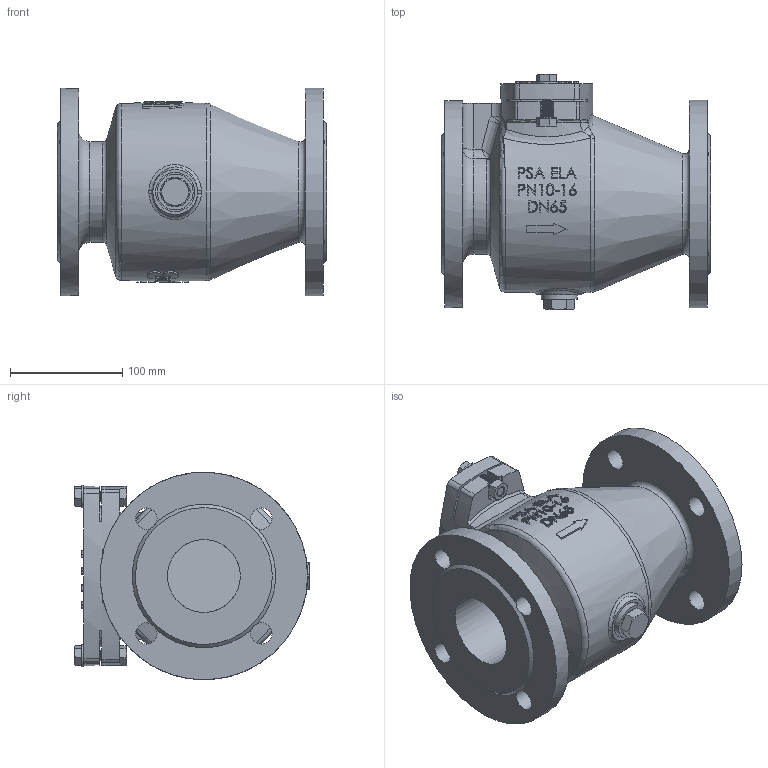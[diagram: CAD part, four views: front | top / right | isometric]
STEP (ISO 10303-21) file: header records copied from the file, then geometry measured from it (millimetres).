
FILE_DESCRIPTION(/* description */ ('PSA ELA DN65 PN16'),/* implementation_level */ '2;1');
FILE_NAME(/* name */ 'PSA ELA DN65 PN16',/* time_stamp */ '2024-10-16T12:06:02+02:00',/* author */ ('Christin-Michelle Fremgen'),/* organization */ ('PSA Wasserarmaturen GmbH'),/* preprocessor_version */ 'ST-DEVELOPER v18.104',/* originating_system */ 'Solid Edge',/* authorisation */ 'Unknown');
FILE_SCHEMA (('AUTOMOTIVE_DESIGN {1 0 10303 214 3 1 1}'));
Products named in the file (1): PSA ELA DN65 PN16
Bounding box: 240 x 209.59 x 185 mm (x, y, z)
Volume: 2110620.4 mm3; surface area: 391953 mm2
Topology: 2 solids, 24 shells, 1518 faces, 3956 edges, 2561 vertices
Faces by surface type: plane 681, bspline 416, cylinder 250, cone 123, torus 40, sphere 8
Full cylindrical faces by diameter (mm): 8 x2, 8.5 x10, 10 x28, 10.5 x2, 12 x2, 16 x2, 19 x8, 20 x2, 24.5 x5, 27 x1, 32 x1, 35 x1, 65 x2, 86 x1, 145 x1, 185 x2
Entity records: 104914 total; most frequent: CARTESIAN_POINT 61090, ORIENTED_EDGE 7382, DIRECTION 5697, EDGE_CURVE 3691, VERTEX_POINT 2478, AXIS2_PLACEMENT_3D 1944, EDGE_LOOP 1815, FACE_BOUND 1815
